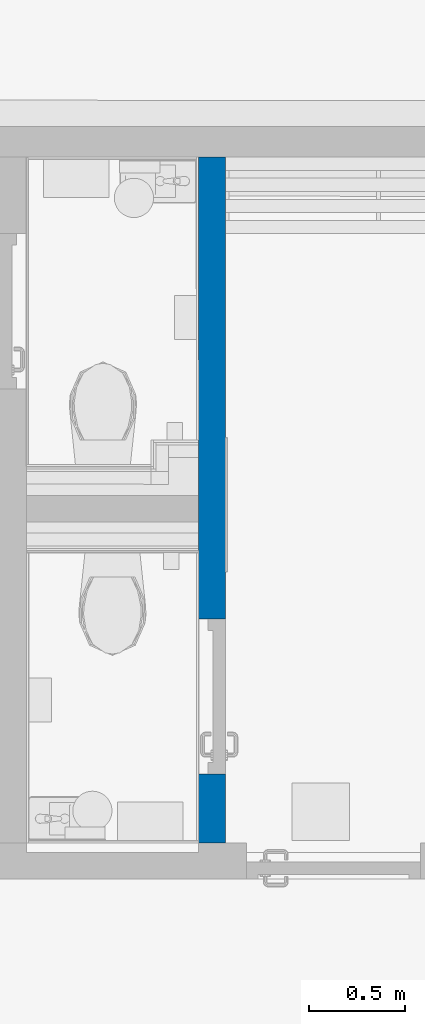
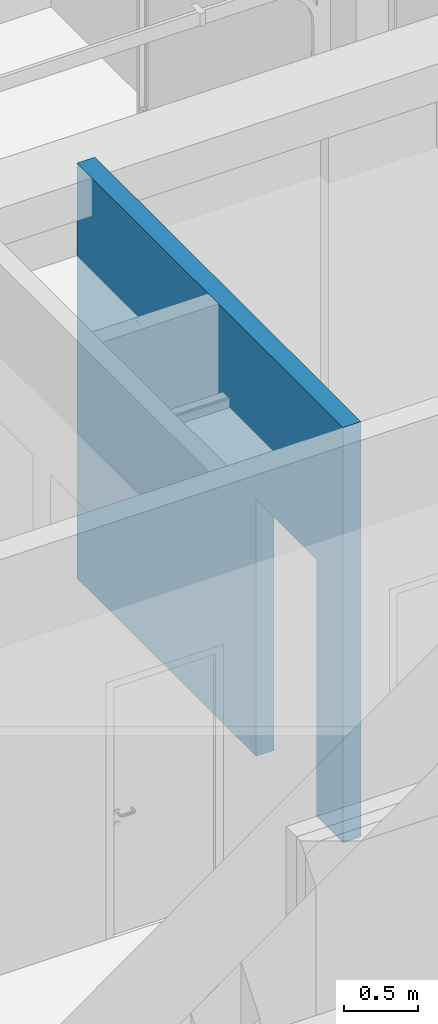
# One storey, part 93 of 301: 1 wall, 1 opening.
"""IFC2X3 building model written with IfcOpenShell, lengths in millimetres."""

import ifcopenshell
import ifcopenshell.guid

model = None  # the IFC model being written
_history = None  # IfcOwnerHistory: only IFC2X3 demands one
_inside = {}  # id of a spatial element -> (the spatial element, [elements in it])
_under = {}  # id of a project, library or spatial element -> (it, [spatial elements below it])
_declared = {}  # id of a project -> (the project, [libraries it declares])
_typed = {}  # id of a type object -> (the type object, [elements of that type])
_made_of = {}  # id of a material, layer set ... -> (it, [elements and type objects made of it])


def new_model(schema):
    """Start an empty IFC model of exactly this schema.

    Asked for "IFC4X3", IfcOpenShell would pick the latest addendum, in which some entities
    have other attributes; the version numbers below select the first issue.
    IFC2X3 requires an IfcOwnerHistory on every rooted entity: one is made here for all.
    """
    global model, _history
    if schema == "IFC4X3":
        model = ifcopenshell.file(schema_version=(4, 3, 0, 0))
    else:
        model = ifcopenshell.file(schema=schema)
    _inside.clear()
    _under.clear()
    _declared.clear()
    _typed.clear()
    _made_of.clear()
    _history = None
    if model.schema == "IFC2X3":
        org = make("IfcOrganization", Name="unknown")
        user = make(
            "IfcPersonAndOrganization",
            ThePerson=make("IfcPerson", FamilyName="unknown"),
            TheOrganization=org,
        )
        app = make(
            "IfcApplication",
            ApplicationDeveloper=org,
            Version="unknown",
            ApplicationFullName="unknown",
            ApplicationIdentifier="unknown",
        )
        _history = make(
            "IfcOwnerHistory",
            OwningUser=user,
            OwningApplication=app,
            ChangeAction="ADDED",
            CreationDate=0,
        )
    return model


def make(cls, **values):
    """One entity of the class cls with the attributes given. An attribute that is None is left unset."""
    return model.create_entity(
        cls, **{name: value for name, value in values.items() if value is not None}
    )


def entity(cls, *values):
    """Any entity or typed value of the class cls, its attributes in the order of the schema. None: left unset."""
    e = model.create_entity(cls)
    for i, value in enumerate(values):
        if value is not None:
            e[i] = value
    return e


def rooted(cls, **values):
    """An entity with a GlobalId (a new one), such as an element, a storey or a relation."""
    return make(cls, GlobalId=ifcopenshell.guid.new(), OwnerHistory=_history, **values)


def si_unit(unit_type, name, prefix=None):
    """IfcSIUnit, for example si_unit("LENGTHUNIT", "METRE", prefix="MILLI")."""
    return make("IfcSIUnit", UnitType=unit_type, Prefix=prefix, Name=name)


def converted_unit(unit_type, name, factor, base, dimensions=None, offset=None):
    """IfcConversionBasedUnit, such as the inch: factor (a typed value) times the base unit."""
    return make(
        "IfcConversionBasedUnit"
        if offset is None
        else "IfcConversionBasedUnitWithOffset",
        ConversionOffset=offset,
        Dimensions=None
        if dimensions is None
        else entity("IfcDimensionalExponents", *dimensions),
        UnitType=unit_type,
        Name=name,
        ConversionFactor=make(
            "IfcMeasureWithUnit", ValueComponent=factor, UnitComponent=base
        ),
    )


def derived_unit(unit_type, elements):
    """IfcDerivedUnit: a product of units, each with its exponent."""
    return make(
        "IfcDerivedUnit",
        Elements=[
            make("IfcDerivedUnitElement", Unit=unit, Exponent=power)
            for unit, power in elements
        ],
        UnitType=unit_type,
    )


def money_unit(currency):
    """IfcMonetaryUnit."""
    return make("IfcMonetaryUnit", Currency=currency)


def assignment(units):
    """IfcUnitAssignment: the units of a project."""
    return None if units is None else make("IfcUnitAssignment", Units=units)


def point(xyz):
    """IfcCartesianPoint."""
    return None if xyz is None else make("IfcCartesianPoint", Coordinates=xyz)


def direction(xyz):
    """IfcDirection."""
    return None if xyz is None else make("IfcDirection", DirectionRatios=xyz)


def frame(location, z_axis=None, x_axis=None):
    """IfcAxis2Placement3D, a coordinate frame: its origin and axes. An axis left out is left unset."""
    return make(
        "IfcAxis2Placement3D",
        Location=point(location),
        Axis=direction(z_axis),
        RefDirection=direction(x_axis),
    )


def origin_with_axes():
    """The frame at (0, 0, 0) with the z axis (0, 0, 1) and the x axis (1, 0, 0) written out."""
    return frame((0.0, 0.0, 0.0), z_axis=(0.0, 0.0, 1.0), x_axis=(1.0, 0.0, 0.0))


def place(relative_to, where):
    """IfcLocalPlacement: puts the frame where relative to a parent placement (None: the world)."""
    return make(
        "IfcLocalPlacement", PlacementRelTo=relative_to, RelativePlacement=where
    )


def context(
    kind, dimensions, precision=None, world=None, true_north=None, identifier=None
):
    """IfcGeometricRepresentationContext, for example the 3D "Model" context."""
    return make(
        "IfcGeometricRepresentationContext",
        ContextIdentifier=identifier,
        ContextType=kind,
        CoordinateSpaceDimension=dimensions,
        Precision=precision,
        WorldCoordinateSystem=world,
        TrueNorth=true_north,
    )


def subcontext(parent, identifier, kind, view, scale=None):
    """IfcGeometricRepresentationSubContext, for example "Body" below "Model"."""
    return make(
        "IfcGeometricRepresentationSubContext",
        ContextIdentifier=identifier,
        ContextType=kind,
        ParentContext=parent,
        TargetScale=scale,
        TargetView=view,
    )


def project(units=None, contexts=None):
    """IfcProject with its units and contexts."""
    return rooted(
        "IfcProject",
        Name="project",
        RepresentationContexts=contexts,
        UnitsInContext=assignment(units),
    )


def spatial(cls, under=None, at=None, **own):
    """A site, building, storey or space (cls), placed at a placement, below another one or the project."""
    s = rooted(cls, ObjectPlacement=at, **own)
    if under is not None:
        _under.setdefault(under.id(), (under, []))[1].append(s)
    return s


def faces_of(points, faces, orient=None, outer=None):
    """IfcFace entities. A face is a list of loops; a loop is a list of indices into points, from 0.

    orient and outer hold one flag for each loop. By default every Orientation is true, the
    first loop of a face is its IfcFaceOuterBound and the others are IfcFaceBound.
    """
    made = []
    for i, loops in enumerate(faces):
        bounds = []
        for j, loop in enumerate(loops):
            is_outer = j == 0 if outer is None else outer[i][j]
            bounds.append(
                make(
                    "IfcFaceOuterBound" if is_outer else "IfcFaceBound",
                    Bound=make("IfcPolyLoop", Polygon=[points[k] for k in loop]),
                    Orientation=True if orient is None else orient[i][j],
                )
            )
        made.append(make("IfcFace", Bounds=bounds))
    return made


def faceted_brep(points, faces, orient=None, outer=None, voids=None):
    """IfcFacetedBrep: a solid bounded by flat faces; with voids (closed shells), ...WithVoids."""
    shared = [point(p) for p in points]
    hull = make("IfcClosedShell", CfsFaces=faces_of(shared, faces, orient, outer))
    if voids is None:
        return make("IfcFacetedBrep", Outer=hull)
    return make(
        "IfcFacetedBrepWithVoids",
        Outer=hull,
        Voids=[
            make(cls, CfsFaces=faces_of(shared, fs, o, b)) for cls, fs, o, b in voids
        ],
    )


def shape(context_of_items, identifier, shape_type, items):
    """IfcShapeRepresentation: the items that make up one representation, for example the "Body"."""
    return make(
        "IfcShapeRepresentation",
        ContextOfItems=context_of_items,
        RepresentationIdentifier=identifier,
        RepresentationType=shape_type,
        Items=items,
    )


def material(Name=None, Category=None):
    """IfcMaterial."""
    return make("IfcMaterial", Name=Name, Category=Category)


def made_of(thing, what):
    """Note that an element or type object is made of a material, layer set ...; save() writes the relation."""
    if what is not None:
        _made_of.setdefault(what.id(), (what, []))[1].append(thing)
    return thing


def type_object(cls, material=None, **own):
    """A type object (cls), such as IfcWallType, which elements share."""
    return made_of(rooted(cls, **own), material)


def element(
    cls,
    number,
    at=None,
    inside=None,
    cuts=None,
    type_object=None,
    material=None,
    context=None,
    identifier="Body",
    shape_type=None,
    held_by="IfcProductDefinitionShape",
    body=None,
    shapes=None,
    **own,
):
    """One element of the class cls, such as IfcWall. Its Tag is "e" and its number.

    at: its placement. inside: the storey or other place that contains it. cuts: it is an
    opening in that element (IfcRelVoidsElement). A single representation is given by context,
    identifier, shape_type and body (its items); several are given by shapes. held_by: the class
    of the entity that holds the representations. save() writes the other relations.
    """
    e = rooted(cls, Tag="e%d" % number, ObjectPlacement=at, **own)
    if body is not None:
        shapes = [shape(context, identifier, shape_type, body)]
    if shapes is not None:
        e.Representation = make(held_by, Representations=shapes)
    if inside is not None:
        _inside.setdefault(inside.id(), (inside, []))[1].append(e)
    if cuts is not None:
        rooted(
            "IfcRelVoidsElement", RelatingBuildingElement=cuts, RelatedOpeningElement=e
        )
    if type_object is not None:
        _typed.setdefault(type_object.id(), (type_object, []))[1].append(e)
    return made_of(e, material)


def aggregate(whole, parts):
    """IfcRelAggregates: a whole, such as a stair, and the parts it consists of."""
    return rooted("IfcRelAggregates", RelatingObject=whole, RelatedObjects=parts)


def save(model, path):
    """Write the relations noted so far, then the file.

    IfcRelAggregates (storeys below a building ...), IfcRelContainedInSpatialStructure (elements
    in a storey), IfcRelDefinesByType, IfcRelAssociatesMaterial and IfcRelDeclares: one each for
    every whole, place, type object, material and project.
    """
    for whole, parts in _under.values():
        aggregate(whole, parts)
    for where, things in _inside.values():
        rooted(
            "IfcRelContainedInSpatialStructure",
            RelatedElements=things,
            RelatingStructure=where,
        )
    for kind, things in _typed.values():
        rooted("IfcRelDefinesByType", RelatedObjects=things, RelatingType=kind)
    for what, things in _made_of.values():
        rooted("IfcRelAssociatesMaterial", RelatedObjects=things, RelatingMaterial=what)
    for by, libraries in _declared.values():
        rooted("IfcRelDeclares", RelatingContext=by, RelatedDefinitions=libraries)
    model.write(path)


model = new_model("IFC2X3")

# Units and contexts
model_context = context("Model", 3, precision=0.01, world=origin_with_axes(), true_north=direction((0.0, 1.0)))
body_context = subcontext(model_context, "Body", "Model", "MODEL_VIEW")
ifc_project = project(units=[si_unit("LENGTHUNIT", "METRE", prefix="MILLI"), si_unit("AREAUNIT", "SQUARE_METRE"), si_unit("VOLUMEUNIT", "CUBIC_METRE"), converted_unit("PLANEANGLEUNIT", "DEGREE", entity("IfcPlaneAngleMeasure", 0.0174532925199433), si_unit("PLANEANGLEUNIT", "RADIAN"), dimensions=[0, 0, 0, 0, 0, 0, 0]), money_unit("EUR"), converted_unit("TIMEUNIT", "Year", entity("IfcTimeMeasure", 31557600.0), si_unit("TIMEUNIT", "SECOND"), dimensions=[0, 0, 1, 0, 0, 0, 0]), si_unit("MASSUNIT", "GRAM", prefix="KILO"), si_unit("THERMODYNAMICTEMPERATUREUNIT", "DEGREE_CELSIUS"), si_unit("LUMINOUSINTENSITYUNIT", "LUMEN"), si_unit("ENERGYUNIT", "JOULE", prefix="MEGA"), derived_unit("THERMALCONDUCTANCEUNIT", [(si_unit("POWERUNIT", "WATT"), 1), (si_unit("LENGTHUNIT", "METRE"), -1), (si_unit("THERMODYNAMICTEMPERATUREUNIT", "KELVIN"), -1)]), derived_unit("SPECIFICHEATCAPACITYUNIT", [(si_unit("ENERGYUNIT", "JOULE"), 1), (si_unit("MASSUNIT", "GRAM", prefix="KILO"), -1), (si_unit("THERMODYNAMICTEMPERATUREUNIT", "KELVIN"), -1)]), derived_unit("MASSDENSITYUNIT", [(si_unit("MASSUNIT", "GRAM", prefix="KILO"), 1), (si_unit("VOLUMEUNIT", "CUBIC_METRE"), -1)])], contexts=[model_context])

# Site, building, storey
site_placement = place(None, frame((0.0, 0.0, 8650.0), z_axis=(0.0, 0.0, 1.0), x_axis=(1.0, 0.0, 0.0)))
site = spatial("IfcSite", under=ifc_project, at=site_placement, Name="43301:001:0844", CompositionType="ELEMENT")
building_placement = place(site_placement, origin_with_axes())
building = spatial("IfcBuilding", under=site, at=building_placement, Name="Kuressaare Ametikooli tuulikute mehaanikute õppekorpus", CompositionType="ELEMENT")
storey_placement = place(building_placement, origin_with_axes())
storey = spatial("IfcBuildingStorey", under=building, at=storey_placement, Name="1.korrus", CompositionType="ELEMENT", Elevation=0.0)

# Wall, opening
ifc_material = material(Name="Betoonõõnesplokk")
wall_type = type_object("IfcWallType", Name="SS-1.2 140", PredefinedType="NOTDEFINED")
wall_placement = place(storey_placement, frame((100027.7066643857, 31954.00949489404, 0.0), z_axis=(0.0, 0.0, 1.0), x_axis=(0.0, -1.0, 0.0)))
wall = element("IfcWall", 1, at=wall_placement, inside=storey, type_object=wall_type, material=ifc_material, Name="Sisesein", context=body_context, shape_type="Brep", body=[
    faceted_brep([(3220.940571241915, 140.0000000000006, 0.0), (3220.940571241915, 140.0000000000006, 2110.0), (2410.940571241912, 140.0000000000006, 2110.0), (2410.940571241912, 140.0000000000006, 0.0), (0.0, 140.0000000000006, 0.0), (0.0, 140.0000000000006, 3410.0), (3580.940571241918, 140.0000000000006, 3410.0), (3580.940571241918, 140.0000000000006, 0.0), (3220.940571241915, 0.0, 0.0), (3220.940571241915, 0.0, 2110.0), (2410.940571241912, 0.0, 2110.0), (2410.940571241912, 0.0, 0.0), (0.0, 0.0, 0.0), (0.0, 0.0, 3410.0), (2.113704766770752e-06, 0.0, 2600.0), (2.113704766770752e-06, 0.2481020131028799, 2600.0), (2.113704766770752e-06, 0.2481020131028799, 2650.0), (2.113704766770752e-06, 0.0, 2650.0), (3580.940571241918, 0.0, 3410.0), (3580.940571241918, 0.0, 0.0), (1476.316648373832, 0.0, 2650.0), (1476.316648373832, 0.0, 2600.0), (1476.316929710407, 0.2481020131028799, 2600.0), (1476.316929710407, 0.2481020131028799, 2650.0)], [[[0, 1, 2, 3, 4, 5, 6, 7]], [[1, 0, 8, 9]], [[2, 1, 9, 10]], [[3, 2, 10, 11]], [[3, 11, 12, 4]], [[13, 5, 4, 12, 14, 15, 16, 17]], [[13, 18, 6, 5]], [[7, 6, 18, 19]], [[8, 0, 7, 19]], [[9, 8, 19, 18, 13, 17, 20, 21, 14, 12, 11, 10]], [[15, 14, 21, 22]], [[16, 15, 22, 23]], [[17, 16, 23, 20]], [[21, 20, 23, 22]]]),
])
opening_placement = place(wall_placement, frame((2815.940571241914, 0.0, 0.0), z_axis=(0.0, 0.0, 1.0), x_axis=(1.0, 0.0, 0.0)))
element("IfcOpeningElement", 2, at=opening_placement, cuts=wall, Name="PU8", context=body_context, shape_type="Brep", body=[
    faceted_brep([(-405.0000000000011, -1.000000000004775, 2110.0), (-405.0000000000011, -1.000000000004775, 0.0), (405.0000000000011, -1.000000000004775, 0.0), (405.0000000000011, -1.000000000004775, 2110.0), (-405.0000000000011, 141.0000000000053, 2110.0), (-405.0000000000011, 141.0000000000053, 0.0), (405.0000000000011, 141.0000000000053, 0.0), (405.0000000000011, 141.0000000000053, 2110.0)], [[[0, 1, 2, 3]], [[4, 5, 1, 0]], [[5, 6, 2, 1]], [[6, 7, 3, 2]], [[7, 4, 0, 3]], [[6, 5, 4, 7]]]),
])

save(model, "model.ifc")
